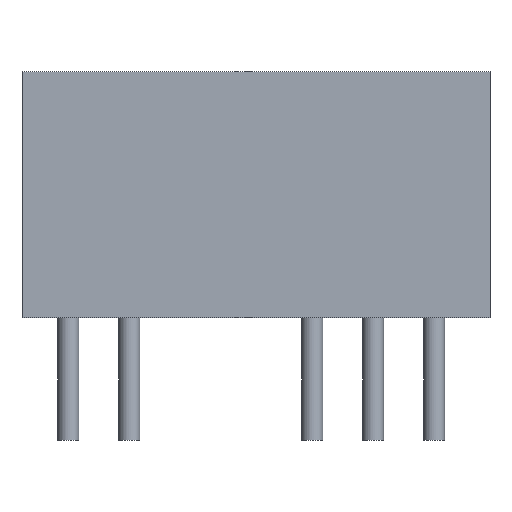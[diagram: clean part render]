
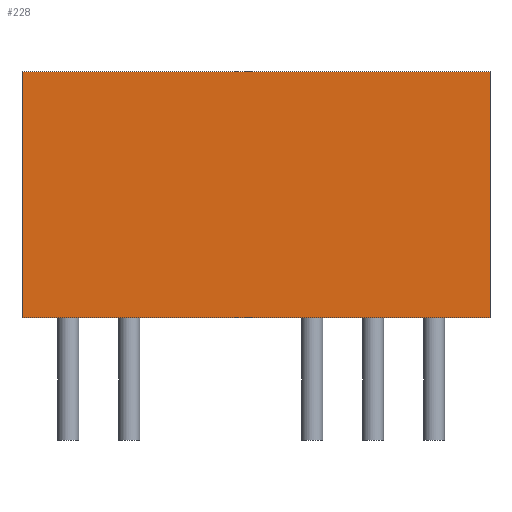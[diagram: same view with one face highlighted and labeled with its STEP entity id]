
A CAD part, front view. The second image highlights one B-rep face of the part: STEP entity #228.
In plain terms, the highlighted planar face has unit normal (0, -1, 0).
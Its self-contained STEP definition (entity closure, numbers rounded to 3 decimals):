
#59 = PLANE('',#60);
#60 = AXIS2_PLACEMENT_3D('',#61,#62,#63);
#61 = CARTESIAN_POINT('',(-1.93,-1.13,0.));
#62 = DIRECTION('',(-1.,0.,0.));
#63 = DIRECTION('',(0.,1.,0.));
#87 = PLANE('',#88);
#88 = AXIS2_PLACEMENT_3D('',#89,#90,#91);
#89 = CARTESIAN_POINT('',(7.82,1.87,10.25));
#90 = DIRECTION('',(-0.,-0.,-1.));
#91 = DIRECTION('',(-1.,0.,0.));
#115 = PLANE('',#116);
#116 = AXIS2_PLACEMENT_3D('',#117,#118,#119);
#117 = CARTESIAN_POINT('',(17.57,4.87,0.));
#118 = DIRECTION('',(1.,0.,-0.));
#119 = DIRECTION('',(0.,-1.,0.));
#141 = PLANE('',#142);
#142 = AXIS2_PLACEMENT_3D('',#143,#144,#145);
#143 = CARTESIAN_POINT('',(7.82,1.87,0.));
#144 = DIRECTION('',(-0.,-0.,-1.));
#145 = DIRECTION('',(-1.,0.,0.));
#158 = VERTEX_POINT('',#159);
#159 = CARTESIAN_POINT('',(17.57,-1.13,10.25));
#180 = EDGE_CURVE('',#181,#158,#183,.T.);
#181 = VERTEX_POINT('',#182);
#182 = CARTESIAN_POINT('',(17.57,-1.13,0.));
#183 = SURFACE_CURVE('',#184,(#188,#195),.PCURVE_S1.);
#184 = LINE('',#185,#186);
#185 = CARTESIAN_POINT('',(17.57,-1.13,0.));
#186 = VECTOR('',#187,1.);
#187 = DIRECTION('',(0.,0.,1.));
#188 = PCURVE('',#115,#189);
#189 = DEFINITIONAL_REPRESENTATION('',(#190),#194);
#190 = LINE('',#191,#192);
#191 = CARTESIAN_POINT('',(6.,0.));
#192 = VECTOR('',#193,1.);
#193 = DIRECTION('',(0.,-1.));
#194 = ( GEOMETRIC_REPRESENTATION_CONTEXT(2) 
PARAMETRIC_REPRESENTATION_CONTEXT() REPRESENTATION_CONTEXT('2D SPACE',''
  ) );
#195 = PCURVE('',#196,#201);
#196 = PLANE('',#197);
#197 = AXIS2_PLACEMENT_3D('',#198,#199,#200);
#198 = CARTESIAN_POINT('',(17.57,-1.13,0.));
#199 = DIRECTION('',(0.,-1.,0.));
#200 = DIRECTION('',(-1.,0.,0.));
#201 = DEFINITIONAL_REPRESENTATION('',(#202),#206);
#202 = LINE('',#203,#204);
#203 = CARTESIAN_POINT('',(0.,-0.));
#204 = VECTOR('',#205,1.);
#205 = DIRECTION('',(0.,-1.));
#206 = ( GEOMETRIC_REPRESENTATION_CONTEXT(2) 
PARAMETRIC_REPRESENTATION_CONTEXT() REPRESENTATION_CONTEXT('2D SPACE',''
  ) );
#228 = ADVANCED_FACE('',(#229),#196,.T.);
#229 = FACE_BOUND('',#230,.T.);
#230 = EDGE_LOOP('',(#231,#232,#255,#278));
#231 = ORIENTED_EDGE('',*,*,#180,.T.);
#232 = ORIENTED_EDGE('',*,*,#233,.T.);
#233 = EDGE_CURVE('',#158,#234,#236,.T.);
#234 = VERTEX_POINT('',#235);
#235 = CARTESIAN_POINT('',(-1.93,-1.13,10.25));
#236 = SURFACE_CURVE('',#237,(#241,#248),.PCURVE_S1.);
#237 = LINE('',#238,#239);
#238 = CARTESIAN_POINT('',(17.57,-1.13,10.25));
#239 = VECTOR('',#240,1.);
#240 = DIRECTION('',(-1.,0.,0.));
#241 = PCURVE('',#196,#242);
#242 = DEFINITIONAL_REPRESENTATION('',(#243),#247);
#243 = LINE('',#244,#245);
#244 = CARTESIAN_POINT('',(0.,-10.25));
#245 = VECTOR('',#246,1.);
#246 = DIRECTION('',(1.,0.));
#247 = ( GEOMETRIC_REPRESENTATION_CONTEXT(2) 
PARAMETRIC_REPRESENTATION_CONTEXT() REPRESENTATION_CONTEXT('2D SPACE',''
  ) );
#248 = PCURVE('',#87,#249);
#249 = DEFINITIONAL_REPRESENTATION('',(#250),#254);
#250 = LINE('',#251,#252);
#251 = CARTESIAN_POINT('',(-9.75,-3.));
#252 = VECTOR('',#253,1.);
#253 = DIRECTION('',(1.,0.));
#254 = ( GEOMETRIC_REPRESENTATION_CONTEXT(2) 
PARAMETRIC_REPRESENTATION_CONTEXT() REPRESENTATION_CONTEXT('2D SPACE',''
  ) );
#255 = ORIENTED_EDGE('',*,*,#256,.F.);
#256 = EDGE_CURVE('',#257,#234,#259,.T.);
#257 = VERTEX_POINT('',#258);
#258 = CARTESIAN_POINT('',(-1.93,-1.13,0.));
#259 = SURFACE_CURVE('',#260,(#264,#271),.PCURVE_S1.);
#260 = LINE('',#261,#262);
#261 = CARTESIAN_POINT('',(-1.93,-1.13,0.));
#262 = VECTOR('',#263,1.);
#263 = DIRECTION('',(0.,0.,1.));
#264 = PCURVE('',#196,#265);
#265 = DEFINITIONAL_REPRESENTATION('',(#266),#270);
#266 = LINE('',#267,#268);
#267 = CARTESIAN_POINT('',(19.5,0.));
#268 = VECTOR('',#269,1.);
#269 = DIRECTION('',(0.,-1.));
#270 = ( GEOMETRIC_REPRESENTATION_CONTEXT(2) 
PARAMETRIC_REPRESENTATION_CONTEXT() REPRESENTATION_CONTEXT('2D SPACE',''
  ) );
#271 = PCURVE('',#59,#272);
#272 = DEFINITIONAL_REPRESENTATION('',(#273),#277);
#273 = LINE('',#274,#275);
#274 = CARTESIAN_POINT('',(0.,0.));
#275 = VECTOR('',#276,1.);
#276 = DIRECTION('',(0.,-1.));
#277 = ( GEOMETRIC_REPRESENTATION_CONTEXT(2) 
PARAMETRIC_REPRESENTATION_CONTEXT() REPRESENTATION_CONTEXT('2D SPACE',''
  ) );
#278 = ORIENTED_EDGE('',*,*,#279,.F.);
#279 = EDGE_CURVE('',#181,#257,#280,.T.);
#280 = SURFACE_CURVE('',#281,(#285,#292),.PCURVE_S1.);
#281 = LINE('',#282,#283);
#282 = CARTESIAN_POINT('',(17.57,-1.13,0.));
#283 = VECTOR('',#284,1.);
#284 = DIRECTION('',(-1.,0.,0.));
#285 = PCURVE('',#196,#286);
#286 = DEFINITIONAL_REPRESENTATION('',(#287),#291);
#287 = LINE('',#288,#289);
#288 = CARTESIAN_POINT('',(0.,-0.));
#289 = VECTOR('',#290,1.);
#290 = DIRECTION('',(1.,0.));
#291 = ( GEOMETRIC_REPRESENTATION_CONTEXT(2) 
PARAMETRIC_REPRESENTATION_CONTEXT() REPRESENTATION_CONTEXT('2D SPACE',''
  ) );
#292 = PCURVE('',#141,#293);
#293 = DEFINITIONAL_REPRESENTATION('',(#294),#298);
#294 = LINE('',#295,#296);
#295 = CARTESIAN_POINT('',(-9.75,-3.));
#296 = VECTOR('',#297,1.);
#297 = DIRECTION('',(1.,0.));
#298 = ( GEOMETRIC_REPRESENTATION_CONTEXT(2) 
PARAMETRIC_REPRESENTATION_CONTEXT() REPRESENTATION_CONTEXT('2D SPACE',''
  ) );
